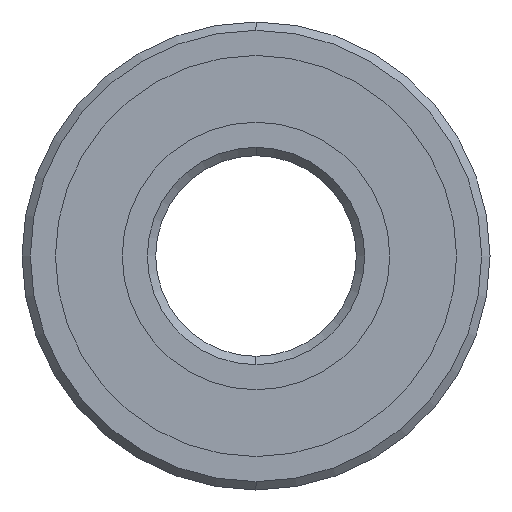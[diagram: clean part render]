
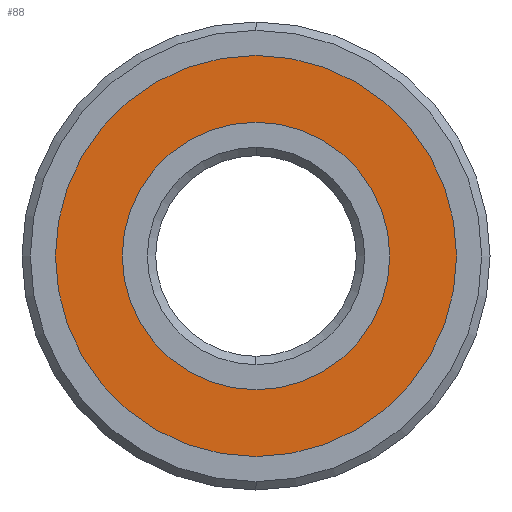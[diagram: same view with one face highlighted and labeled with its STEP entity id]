
A CAD part, left-side view. The second image highlights one B-rep face of the part: STEP entity #88.
In plain terms, the highlighted planar face has unit normal (-1, 0, 0).
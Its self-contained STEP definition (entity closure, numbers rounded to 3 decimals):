
#13 = DIRECTION ( 'NONE',  ( 1., 0., 0. ) ) ;
#39 = ORIENTED_EDGE ( 'NONE', *, *, #599, .T. ) ;
#83 = DIRECTION ( 'NONE',  ( 0., 0., 1. ) ) ;
#88 = ADVANCED_FACE ( 'NONE', ( #194, #445 ), #301, .T. ) ;
#120 = AXIS2_PLACEMENT_3D ( 'NONE', #177, #13, #216 ) ;
#141 = AXIS2_PLACEMENT_3D ( 'NONE', #440, #504, #83 ) ;
#158 = ORIENTED_EDGE ( 'NONE', *, *, #436, .T. ) ;
#177 = CARTESIAN_POINT ( 'NONE',  ( -3.5, 0., 0. ) ) ;
#194 = FACE_BOUND ( 'NONE', #554, .T. ) ;
#216 = DIRECTION ( 'NONE',  ( 0., 0., 1. ) ) ;
#239 = VERTEX_POINT ( 'NONE', #319 ) ;
#250 = DIRECTION ( 'NONE',  ( 0., 0., 1. ) ) ;
#297 = DIRECTION ( 'NONE',  ( 0., 0., 1. ) ) ;
#301 = PLANE ( 'NONE',  #457 ) ;
#302 = DIRECTION ( 'NONE',  ( -1., 0., 0. ) ) ;
#319 = CARTESIAN_POINT ( 'NONE',  ( -3.5, 0., 12. ) ) ;
#331 = ORIENTED_EDGE ( 'NONE', *, *, #548, .F. ) ;
#348 = CARTESIAN_POINT ( 'NONE',  ( -3.5, 0., 0. ) ) ;
#357 = CIRCLE ( 'NONE', #141, 8. ) ;
#364 = VERTEX_POINT ( 'NONE', #639 ) ;
#376 = VERTEX_POINT ( 'NONE', #486 ) ;
#397 = CARTESIAN_POINT ( 'NONE',  ( -3.5, 0., 0. ) ) ;
#398 = CIRCLE ( 'NONE', #429, 12. ) ;
#412 = CIRCLE ( 'NONE', #120, 8. ) ;
#429 = AXIS2_PLACEMENT_3D ( 'NONE', #348, #616, #555 ) ;
#436 = EDGE_CURVE ( 'NONE', #376, #522, #412, .T. ) ;
#440 = CARTESIAN_POINT ( 'NONE',  ( -3.5, 0., 0. ) ) ;
#442 = AXIS2_PLACEMENT_3D ( 'NONE', #449, #500, #250 ) ;
#445 = FACE_OUTER_BOUND ( 'NONE', #545, .T. ) ;
#449 = CARTESIAN_POINT ( 'NONE',  ( -3.5, 0., 0. ) ) ;
#457 = AXIS2_PLACEMENT_3D ( 'NONE', #397, #302, #297 ) ;
#486 = CARTESIAN_POINT ( 'NONE',  ( -3.5, 0., -8. ) ) ;
#500 = DIRECTION ( 'NONE',  ( 1., 0., 0. ) ) ;
#504 = DIRECTION ( 'NONE',  ( 1., 0., 0. ) ) ;
#522 = VERTEX_POINT ( 'NONE', #651 ) ;
#530 = ORIENTED_EDGE ( 'NONE', *, *, #594, .F. ) ;
#545 = EDGE_LOOP ( 'NONE', ( #530, #331 ) ) ;
#548 = EDGE_CURVE ( 'NONE', #364, #239, #670, .T. ) ;
#554 = EDGE_LOOP ( 'NONE', ( #39, #158 ) ) ;
#555 = DIRECTION ( 'NONE',  ( 0., 0., 1. ) ) ;
#594 = EDGE_CURVE ( 'NONE', #239, #364, #398, .T. ) ;
#599 = EDGE_CURVE ( 'NONE', #522, #376, #357, .T. ) ;
#616 = DIRECTION ( 'NONE',  ( 1., 0., 0. ) ) ;
#639 = CARTESIAN_POINT ( 'NONE',  ( -3.5, 0., -12. ) ) ;
#651 = CARTESIAN_POINT ( 'NONE',  ( -3.5, 0., 8. ) ) ;
#670 = CIRCLE ( 'NONE', #442, 12. ) ;
